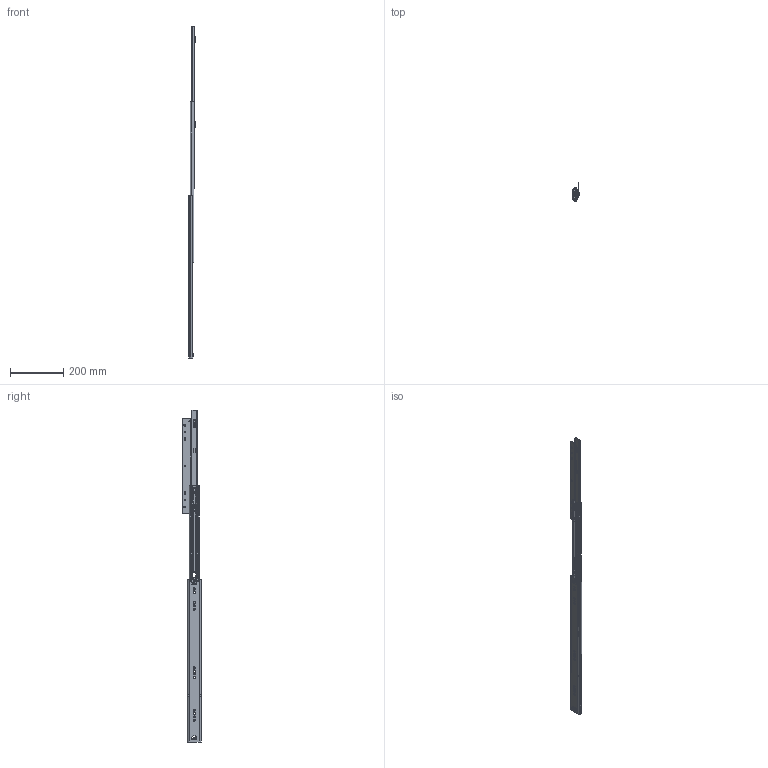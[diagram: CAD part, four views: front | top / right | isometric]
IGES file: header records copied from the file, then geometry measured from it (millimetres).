
Global section: file name: No Iges File Name specified; native system: Autodesk Inventor 2012; preprocessor: AutoDesk Inventor Iges Exporter R2012; author: HV83751; date: 20130708.085223; units: inch
Bounding box: 22.61 x 70.18 x 1245.06 mm (x, y, z)
Surface area: 290041.2 mm2
Topology: 6 solids, 31 shells, 1645 faces, 4862 edges, 3139 vertices
Faces by surface type: plane 822, revolution 427, cylinder 339, bspline 48, torus 9
